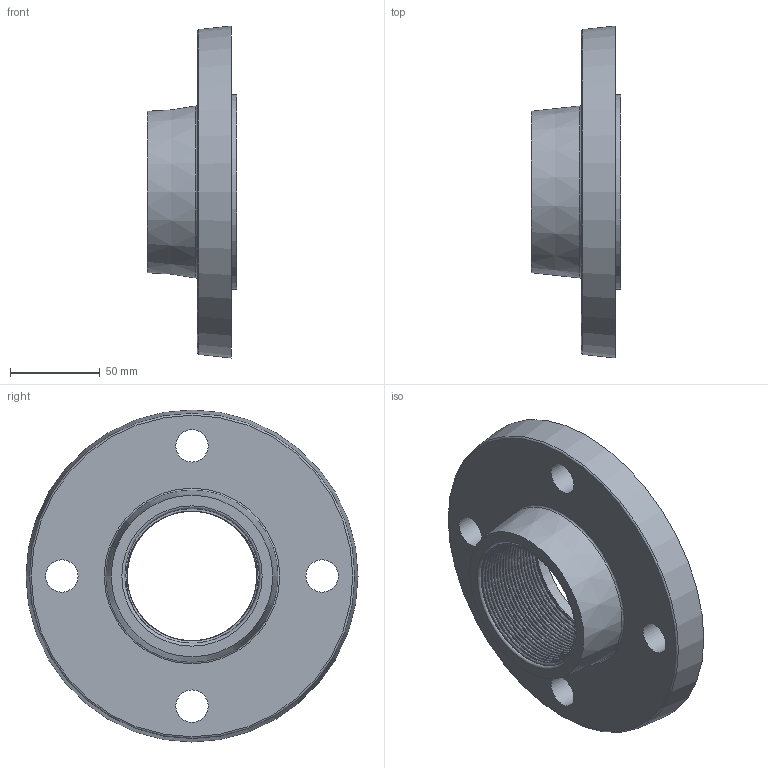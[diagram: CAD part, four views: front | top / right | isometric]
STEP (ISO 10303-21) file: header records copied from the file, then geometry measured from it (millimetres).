
FILE_DESCRIPTION(/* description */ (''),/* implementation_level */ '2;1');
FILE_NAME(/* name */ 'C:\Users\Gabriele\Desktop\disegni 3D\FF01\FF010750.ipt.stp',/* time_stamp */ '2017-01-25T17:54:02+01:00',/* author */ ('Gabriele'),/* organization */ (''),/* preprocessor_version */ 'ST-DEVELOPER v16.5',/* originating_system */ 'Autodesk Inventor 2017',/* authorisation */ '');
FILE_SCHEMA (('AUTOMOTIVE_DESIGN { 1 0 10303 214 3 1 1 }'));
Length unit declared in the file: millimetre
Products named in the file (1): FF010750
Bounding box: 50 x 185 x 185 mm (x, y, z)
Volume: 418441.4 mm3; surface area: 121265.8 mm2
Topology: 2 solids, 2 shells, 395 faces, 823 edges, 457 vertices
Faces by surface type: torus 151, cylinder 143, sphere 48, plane 45, bspline 6, cone 2
Full cylindrical faces by diameter (mm): 18 x4, 73 x1, 75.18 x2, 78.071 x1, 83.143 x1, 88.214 x1, 93.286 x1, 98.357 x1, 103.429 x1, 108.5 x1
Entity records: 19051 total; most frequent: CARTESIAN_POINT 10454, DIRECTION 2094, ORIENTED_EDGE 1592, AXIS2_PLACEMENT_3D 959, EDGE_CURVE 796, CIRCLE 569, EDGE_LOOP 455, VERTEX_POINT 453
